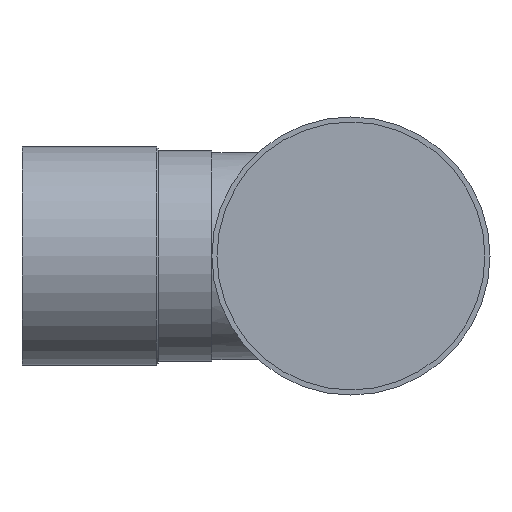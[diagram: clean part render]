
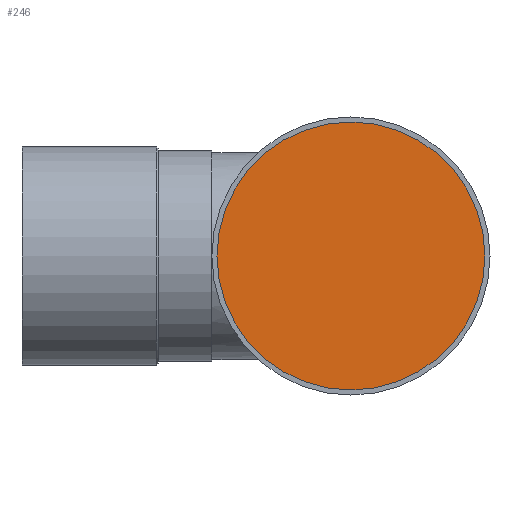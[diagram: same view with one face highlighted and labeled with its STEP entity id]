
A CAD part, front view. The second image highlights one B-rep face of the part: STEP entity #246.
In plain terms, the highlighted planar face has unit normal (0, -1, 0).
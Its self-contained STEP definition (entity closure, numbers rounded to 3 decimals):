
#61=ORIENTED_EDGE('',*,*,#86,.F.);
#86=EDGE_CURVE('',#107,#107,#128,.T.);
#107=VERTEX_POINT('',#427);
#128=CIRCLE('',#286,69.85);
#165=EDGE_LOOP('',(#61));
#207=FACE_BOUND('',#165,.T.);
#228=PLANE('',#300);
#246=ADVANCED_FACE('',(#207),#228,.F.);
#286=AXIS2_PLACEMENT_3D('',#426,#350,#351);
#300=AXIS2_PLACEMENT_3D('',#448,#378,#379);
#350=DIRECTION('',(0.,1.,0.));
#351=DIRECTION('',(0.,0.,1.));
#378=DIRECTION('',(0.,1.,0.));
#379=DIRECTION('',(0.,0.,1.));
#426=CARTESIAN_POINT('',(0.,-99.,0.));
#427=CARTESIAN_POINT('',(0.,-99.,69.85));
#448=CARTESIAN_POINT('',(0.,-99.,0.));
